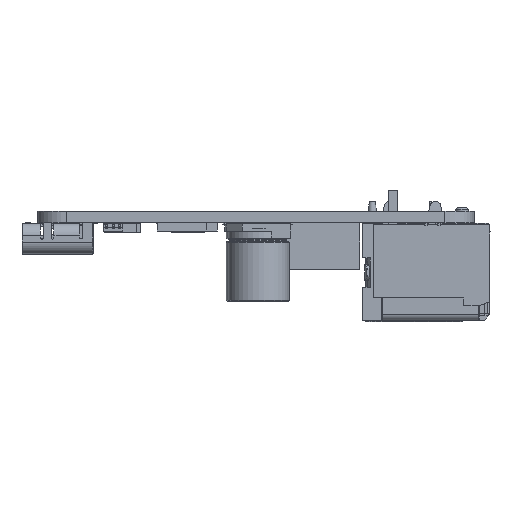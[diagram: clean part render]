
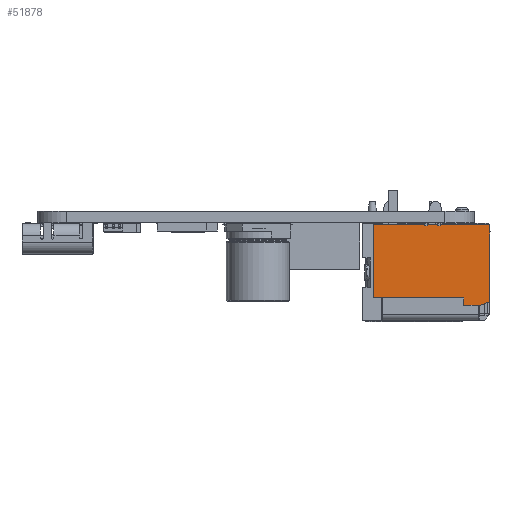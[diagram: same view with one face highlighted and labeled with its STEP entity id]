
A CAD part, left-side view. The second image highlights one B-rep face of the part: STEP entity #51878.
In plain terms, the highlighted planar face has unit normal (-1, 0, 0) as drawn and (1, 0, 0) by its records, which use the part's own axes.
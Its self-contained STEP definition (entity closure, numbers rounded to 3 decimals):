
#7031=FACE_OUTER_BOUND('',#9874,.T.);
#9874=EDGE_LOOP('',(#44684,#44685,#44686,#44687,#44688,#44689,#44690,#44691,
#44692));
#14647=LINE('',#85996,#20083);
#14657=LINE('',#86016,#20093);
#14665=LINE('',#86030,#20101);
#14721=LINE('',#86167,#20157);
#14729=LINE('',#86183,#20165);
#14739=LINE('',#86203,#20175);
#14757=LINE('',#86236,#20193);
#14761=LINE('',#86247,#20197);
#14762=LINE('',#86248,#20198);
#20083=VECTOR('',#67800,1.);
#20093=VECTOR('',#67818,1.);
#20101=VECTOR('',#67832,1.);
#20157=VECTOR('',#67974,1.);
#20165=VECTOR('',#67984,1.);
#20175=VECTOR('',#67998,1.);
#20193=VECTOR('',#68022,1.);
#20197=VECTOR('',#68038,1.);
#20198=VECTOR('',#68039,1.);
#24962=VERTEX_POINT('',#85993);
#24963=VERTEX_POINT('',#85995);
#24969=VERTEX_POINT('',#86015);
#24972=VERTEX_POINT('',#86029);
#25010=VERTEX_POINT('',#86166);
#25017=VERTEX_POINT('',#86182);
#25024=VERTEX_POINT('',#86200);
#25025=VERTEX_POINT('',#86202);
#25038=VERTEX_POINT('',#86246);
#31638=EDGE_CURVE('',#24963,#24962,#14647,.T.);
#31648=EDGE_CURVE('',#24969,#24963,#14657,.T.);
#31656=EDGE_CURVE('',#24972,#24969,#14665,.T.);
#31722=EDGE_CURVE('',#25010,#24972,#14721,.T.);
#31730=EDGE_CURVE('',#25017,#25010,#14729,.T.);
#31740=EDGE_CURVE('',#25025,#25024,#14739,.T.);
#31758=EDGE_CURVE('',#25024,#25017,#14757,.T.);
#31762=EDGE_CURVE('',#24962,#25038,#14761,.T.);
#31763=EDGE_CURVE('',#25038,#25025,#14762,.T.);
#44684=ORIENTED_EDGE('',*,*,#31638,.T.);
#44685=ORIENTED_EDGE('',*,*,#31762,.T.);
#44686=ORIENTED_EDGE('',*,*,#31763,.T.);
#44687=ORIENTED_EDGE('',*,*,#31740,.T.);
#44688=ORIENTED_EDGE('',*,*,#31758,.T.);
#44689=ORIENTED_EDGE('',*,*,#31730,.T.);
#44690=ORIENTED_EDGE('',*,*,#31722,.T.);
#44691=ORIENTED_EDGE('',*,*,#31656,.T.);
#44692=ORIENTED_EDGE('',*,*,#31648,.T.);
#49386=PLANE('',#56194);
#51878=ADVANCED_FACE('',(#7031),#49386,.T.);
#56194=AXIS2_PLACEMENT_3D('',#86245,#68036,#68037);
#67800=DIRECTION('',(0.,-1.,0.));
#67818=DIRECTION('',(0.,-0.33,0.944));
#67832=DIRECTION('',(0.,0.,1.));
#67974=DIRECTION('',(0.,1.,0.));
#67984=DIRECTION('',(0.,0.,1.));
#67998=DIRECTION('',(0.,0.,-1.));
#68022=DIRECTION('',(0.,1.,0.));
#68036=DIRECTION('center_axis',(1.,0.,0.));
#68037=DIRECTION('ref_axis',(0.,0.,-1.));
#68038=DIRECTION('',(0.,0.,-1.));
#68039=DIRECTION('',(0.,-1.,0.));
#85993=CARTESIAN_POINT('',(5.99,-3.78,0.));
#85995=CARTESIAN_POINT('',(5.99,4.15,0.));
#85996=CARTESIAN_POINT('',(5.99,4.15,0.));
#86015=CARTESIAN_POINT('',(5.99,4.5,-1.));
#86016=CARTESIAN_POINT('',(5.99,4.5,-1.));
#86029=CARTESIAN_POINT('',(5.99,4.5,-2.7));
#86030=CARTESIAN_POINT('',(5.99,4.5,-2.7));
#86166=CARTESIAN_POINT('',(5.99,3.75,-2.7));
#86167=CARTESIAN_POINT('',(5.99,3.75,-2.7));
#86182=CARTESIAN_POINT('',(5.99,3.75,-12.));
#86183=CARTESIAN_POINT('',(5.99,3.75,-12.));
#86200=CARTESIAN_POINT('',(5.99,-3.85,-12.));
#86202=CARTESIAN_POINT('',(5.99,-3.85,-2.7));
#86203=CARTESIAN_POINT('',(5.99,-3.85,-2.7));
#86236=CARTESIAN_POINT('',(5.99,-3.85,-12.));
#86245=CARTESIAN_POINT('Origin',(5.99,0.,0.));
#86246=CARTESIAN_POINT('',(5.99,-3.78,-2.7));
#86247=CARTESIAN_POINT('',(5.99,-3.78,0.));
#86248=CARTESIAN_POINT('',(5.99,-3.78,-2.7));
